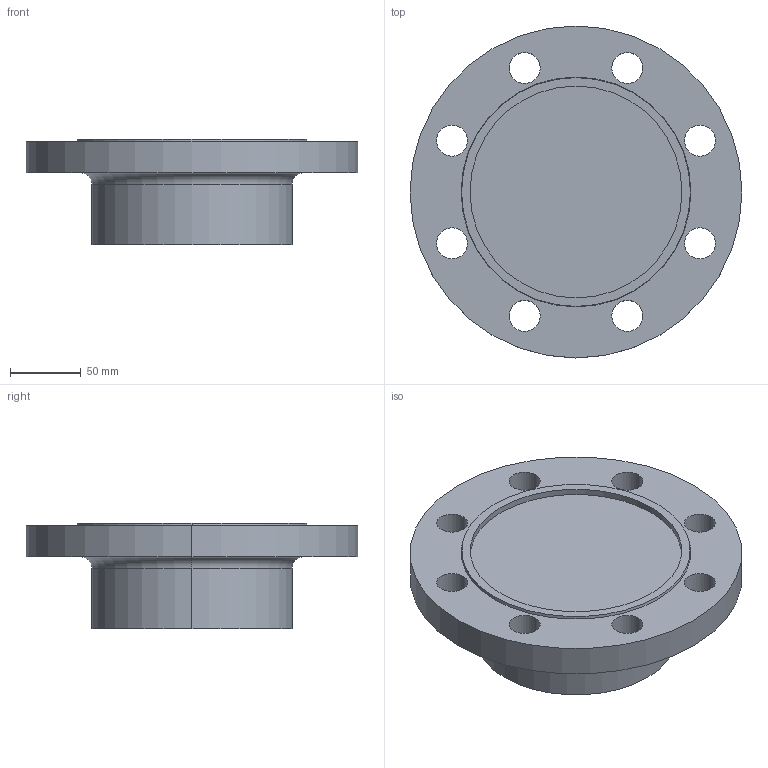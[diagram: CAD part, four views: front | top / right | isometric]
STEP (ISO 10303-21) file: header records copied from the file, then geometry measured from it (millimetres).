
FILE_DESCRIPTION (( 'STEP AP214' ), '1' );
FILE_NAME ('PN40 DN100 Type 21(i) - Type F Face.STEP', '2019-01-02T00:15:22', ( '' ), ( '' ), 'SwSTEP 2.0', 'SolidWorks 2019', '' );
FILE_SCHEMA (( 'AUTOMOTIVE_DESIGN' ));
Length unit declared in the file: millimetre
Products named in the file (1): PN40 DN100 Type 21(i) - Type F Face
Bounding box: 235 x 235 x 75 mm (x, y, z)
Volume: 1663154.8 mm3; surface area: 133296 mm2
Topology: 1 solids, 1 shells, 31 faces, 76 edges, 50 vertices
Faces by surface type: cylinder 22, plane 5, torus 2, cone 2
Entity records: 1012 total; most frequent: DIRECTION 192, CARTESIAN_POINT 158, ORIENTED_EDGE 152, AXIS2_PLACEMENT_3D 84, EDGE_CURVE 76, CIRCLE 52, EDGE_LOOP 50, VERTEX_POINT 50
